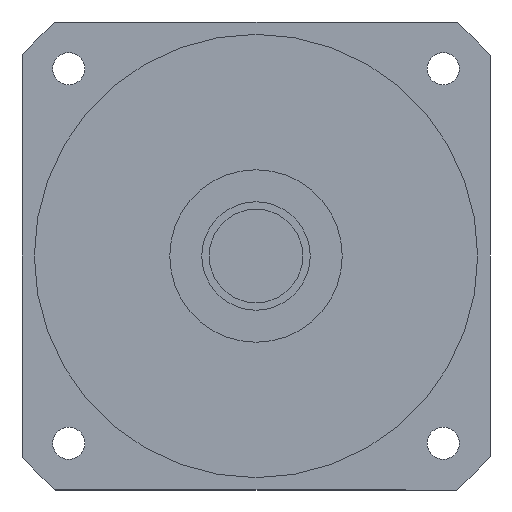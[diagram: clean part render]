
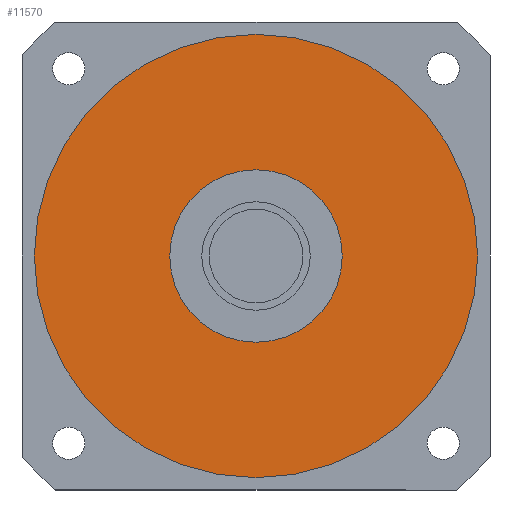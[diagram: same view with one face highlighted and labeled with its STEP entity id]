
A CAD part, left-side view. The second image highlights one B-rep face of the part: STEP entity #11570.
In plain terms, the highlighted planar face has unit normal (-1, 0, 0) as drawn and (0, 0, -1) by its records, which use the part's own axes.
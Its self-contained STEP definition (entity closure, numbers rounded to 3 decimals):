
#11010=CARTESIAN_POINT('',(-35.,0.,-80.2));
#11020=VERTEX_POINT('',#11010);
#11050=CARTESIAN_POINT('',(0.,0.,
-80.2));
#11060=DIRECTION('',(0.,0.,1.));
#11070=DIRECTION('',(0.,1.,0.));
#11080=AXIS2_PLACEMENT_3D('',#11050,#11060,#11070);
#11090=CIRCLE('',#11080,35.);
#11100=CARTESIAN_POINT('',(35.,0.,-80.2));
#11110=VERTEX_POINT('',#11100);
#11120=EDGE_CURVE('',#11020,#11110,#11090,.T.);
#11240=CARTESIAN_POINT('',(0.,0.,
-80.2));
#11250=DIRECTION('',(0.,0.,1.));
#11260=DIRECTION('',(-1.,0.,0.));
#11270=AXIS2_PLACEMENT_3D('',#11240,#11250,#11260);
#11280=PLANE('',#11270);
#11290=ORIENTED_EDGE('',*,*,#11120,.T.);
#11300=CARTESIAN_POINT('',(0.,35.,-80.2));
#11310=VERTEX_POINT('',#11300);
#11320=EDGE_CURVE('',#11310,#11020,#11090,.T.);
#11330=ORIENTED_EDGE('',*,*,#11320,.T.);
#11340=EDGE_CURVE('',#11110,#11310,#11090,.T.);
#11350=ORIENTED_EDGE('',*,*,#11340,.T.);
#11360=EDGE_LOOP('',(#11350,#11330,#11290));
#11370=FACE_BOUND('',#11360,.T.);
#11380=CARTESIAN_POINT('',(0.,0.,
-80.2));
#11390=DIRECTION('',(0.,0.,1.));
#11400=DIRECTION('',(0.,1.,0.));
#11410=AXIS2_PLACEMENT_3D('',#11380,#11390,#11400);
#11420=CIRCLE('',#11410,90.);
#11430=CARTESIAN_POINT('',(0.,90.,-80.2));
#11440=VERTEX_POINT('',#11430);
#11450=CARTESIAN_POINT('',(-90.,0.,-80.2));
#11460=VERTEX_POINT('',#11450);
#11470=EDGE_CURVE('',#11440,#11460,#11420,.T.);
#11480=ORIENTED_EDGE('',*,*,#11470,.F.);
#11490=CARTESIAN_POINT('',(90.,0.,-80.2));
#11500=VERTEX_POINT('',#11490);
#11510=EDGE_CURVE('',#11460,#11500,#11420,.T.);
#11520=ORIENTED_EDGE('',*,*,#11510,.F.);
#11530=EDGE_CURVE('',#11500,#11440,#11420,.T.);
#11540=ORIENTED_EDGE('',*,*,#11530,.F.);
#11550=EDGE_LOOP('',(#11540,#11520,#11480));
#11560=FACE_OUTER_BOUND('',#11550,.T.);
#11570=ADVANCED_FACE('',(#11370,#11560),#11280,.F.);
